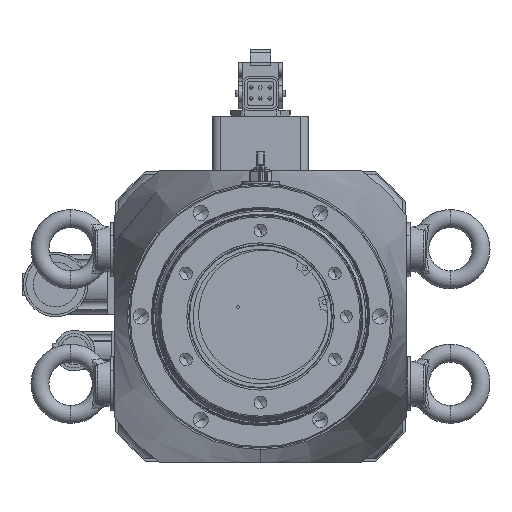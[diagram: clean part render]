
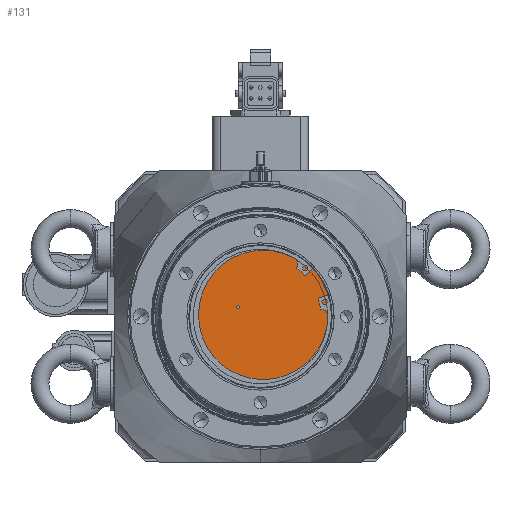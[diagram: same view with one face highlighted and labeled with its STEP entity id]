
A CAD part, front view. The second image highlights one B-rep face of the part: STEP entity #131.
In plain terms, the highlighted planar face has unit normal (0, -1, 0).
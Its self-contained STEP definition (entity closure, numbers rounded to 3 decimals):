
#131 = ADVANCED_FACE ( 'NONE', ( #45857, #41162 ), #29073, .F. ) ;
#348 = AXIS2_PLACEMENT_3D ( 'NONE', #48606, #29701, #33985 ) ;
#2083 = DIRECTION ( 'NONE',  ( 0.866, 0., 0.5 ) ) ;
#4000 = CIRCLE ( 'NONE', #348, 1. ) ;
#5375 = AXIS2_PLACEMENT_3D ( 'NONE', #30999, #30683, #34782 ) ;
#5993 = DIRECTION ( 'NONE',  ( 0., 1., 0. ) ) ;
#6584 = CARTESIAN_POINT ( 'NONE',  ( -97., -290.221, -97. ) ) ;
#8017 = EDGE_CURVE ( 'NONE', #12646, #33693, #17524, .T. ) ;
#9694 = EDGE_CURVE ( 'NONE', #32651, #14826, #40798, .T. ) ;
#12324 = ORIENTED_EDGE ( 'NONE', *, *, #22081, .F. ) ;
#12646 = VERTEX_POINT ( 'NONE', #23996 ) ;
#13630 = EDGE_LOOP ( 'NONE', ( #34721, #14410 ) ) ;
#14410 = ORIENTED_EDGE ( 'NONE', *, *, #19095, .T. ) ;
#14826 = VERTEX_POINT ( 'NONE', #44047 ) ;
#17524 = CIRCLE ( 'NONE', #42778, 47.5 ) ;
#19095 = EDGE_CURVE ( 'NONE', #14826, #32651, #4000, .T. ) ;
#19568 = EDGE_LOOP ( 'NONE', ( #12324, #38912 ) ) ;
#22081 = EDGE_CURVE ( 'NONE', #33693, #12646, #36611, .T. ) ;
#23996 = CARTESIAN_POINT ( 'NONE',  ( -55.864, -290.221, -73.25 ) ) ;
#24488 = CARTESIAN_POINT ( 'NONE',  ( -138.136, -290.221, -120.75 ) ) ;
#28940 = DIRECTION ( 'NONE',  ( 0., 1., 0. ) ) ;
#29073 = PLANE ( 'NONE',  #36889 ) ;
#29701 = DIRECTION ( 'NONE',  ( 0., 1., 0. ) ) ;
#30683 = DIRECTION ( 'NONE',  ( 0., 1., 0. ) ) ;
#30999 = CARTESIAN_POINT ( 'NONE',  ( -97., -290.221, -97. ) ) ;
#32189 = CARTESIAN_POINT ( 'NONE',  ( -113.005, -290.221, -91.263 ) ) ;
#32651 = VERTEX_POINT ( 'NONE', #32189 ) ;
#32693 = DIRECTION ( 'NONE',  ( 0.866, 0., 0.5 ) ) ;
#33693 = VERTEX_POINT ( 'NONE', #24488 ) ;
#33985 = DIRECTION ( 'NONE',  ( 0.866, 0., 0.5 ) ) ;
#34721 = ORIENTED_EDGE ( 'NONE', *, *, #9694, .T. ) ;
#34782 = DIRECTION ( 'NONE',  ( 0.866, 0., 0.5 ) ) ;
#36611 = CIRCLE ( 'NONE', #5375, 47.5 ) ;
#36647 = DIRECTION ( 'NONE',  ( 0., 1., 0. ) ) ;
#36889 = AXIS2_PLACEMENT_3D ( 'NONE', #6584, #36647, #40445 ) ;
#38912 = ORIENTED_EDGE ( 'NONE', *, *, #8017, .F. ) ;
#39529 = CARTESIAN_POINT ( 'NONE',  ( -97., -290.221, -97. ) ) ;
#40445 = DIRECTION ( 'NONE',  ( 0.866, 0., 0.5 ) ) ;
#40798 = CIRCLE ( 'NONE', #47562, 1. ) ;
#41162 = FACE_BOUND ( 'NONE', #13630, .T. ) ;
#42778 = AXIS2_PLACEMENT_3D ( 'NONE', #39529, #5993, #2083 ) ;
#44047 = CARTESIAN_POINT ( 'NONE',  ( -111.273, -290.221, -90.263 ) ) ;
#45857 = FACE_OUTER_BOUND ( 'NONE', #19568, .T. ) ;
#47562 = AXIS2_PLACEMENT_3D ( 'NONE', #47821, #28940, #32693 ) ;
#47821 = CARTESIAN_POINT ( 'NONE',  ( -112.139, -290.221, -90.763 ) ) ;
#48606 = CARTESIAN_POINT ( 'NONE',  ( -112.139, -290.221, -90.763 ) ) ;
